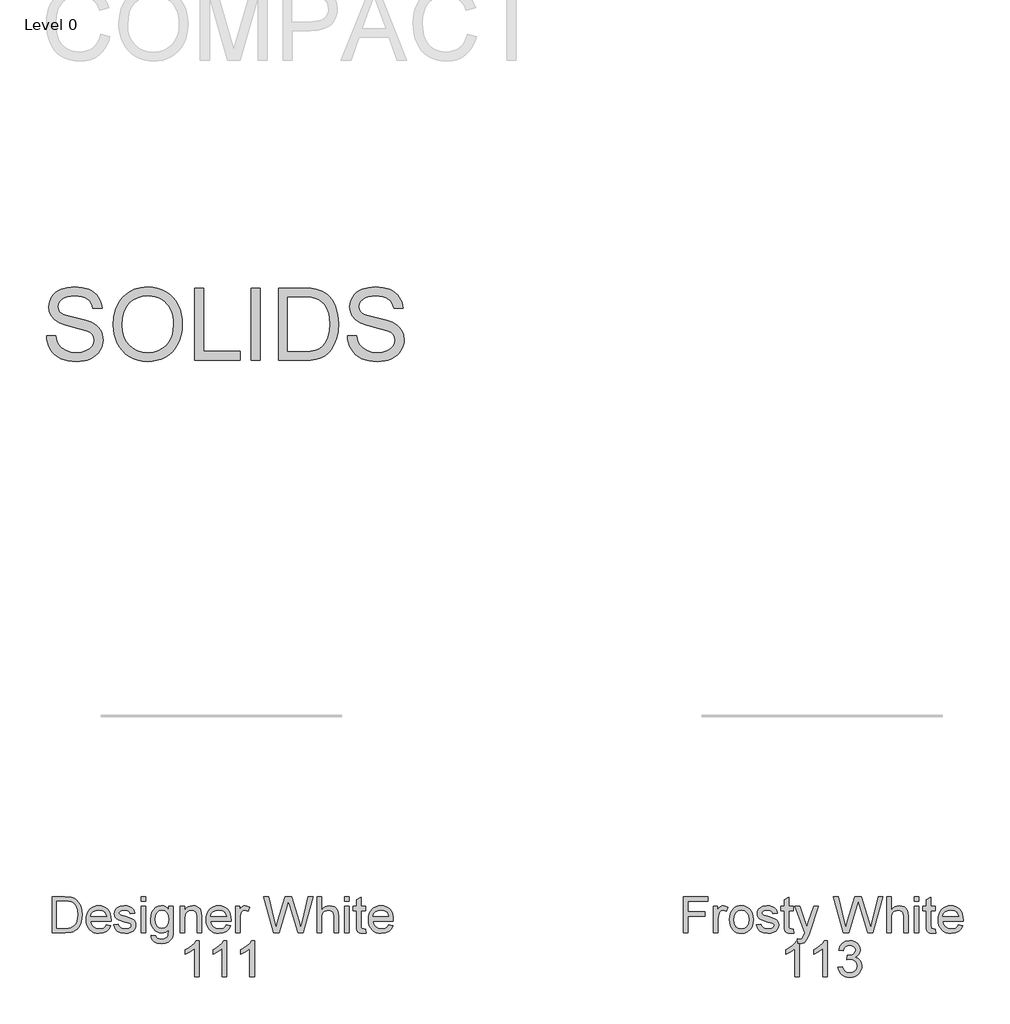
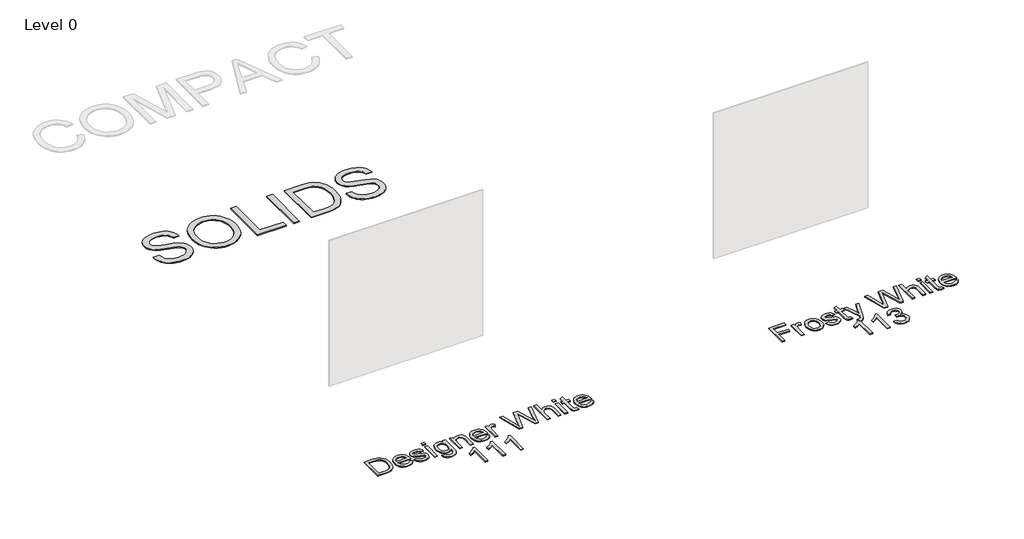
# One storey, part 6 of 15: 3 proxies.
"""IFC4 building model written with IfcOpenShell, lengths in millimetres."""

from ifc_helpers import new_model, si_unit, origin, origin_with_axes, place, context, project, spatial, polyline, outline, extrude, element, save

model = new_model("IFC4")

# Units and contexts
model_context = context("Model", 3, world=origin())
ifc_project = project(units=[si_unit("LENGTHUNIT", "METRE", prefix="MILLI")], contexts=[model_context])

# Site, building, storey
site = spatial("IfcSite", under=ifc_project)
building = spatial("IfcBuilding", under=site)
storey = spatial("IfcBuildingStorey", under=building, Name="Level 0", Elevation=0.0)

# Proxies
placement = place(None, origin())
element("IfcBuildingElementProxy", 1, Name="300mm Arial", ObjectType="300mm Arial", at=placement, inside=storey, context=model_context, shape_type="SweptSolid", body=[
    extrude(outline(polyline([(-10858.6160282, -7002.860494), (-10858.6160282, -6701.4915635), (-10754.6525764, -6701.4915635), (-10700.8682287, -6705.8325711), (-10676.8455344, -6714.2018865), (-10656.5752365, -6727.390456), (-10635.7347215, -6750.3462925), (-10620.890683, -6778.8939353), (-10612.0063328, -6812.4815615), (-10609.0448827, -6850.557348), (-10611.0498396, -6882.9033724), (-10617.0647102, -6911.3682418), (-10626.2249719, -6935.6024682), (-10637.6661019, -6955.2565638), (-10650.8362774, -6970.771987), (-10665.1836752, -6982.590196), (-10681.6555915, -6991.3549846), (-10701.1993225, -6997.710146), (-10749.6493813, -7002.860494), (-10858.6160282, -7002.860494)]), holes=[polyline([(-10820.9449119, -6965.1893777), (-10754.2846944, -6965.1893777), (-10726.7119389, -6963.8282143), (-10705.7978475, -6959.7447241), (-10690.0157099, -6953.1780305), (-10677.8388158, -6944.3672567), (-10664.7514138, -6928.0608873), (-10654.9197675, -6906.9536578), (-10648.7669411, -6880.9535978), (-10646.715999, -6849.9687368), (-10650.7351098, -6808.9131061), (-10662.7924422, -6778.5996297), (-10680.6071278, -6757.7775088), (-10701.8982983, -6745.1959446), (-10723.5665478, -6740.670996), (-10755.314764, -6739.1626798), (-10820.9449119, -6739.1626798), (-10820.9449119, -6965.1893777)])]), origin_with_axes(), (0.0, 0.0, 1.0), 10.0),
    extrude(outline(polyline([(-10407.004091, -6936.9360404), (-10370.0687387, -6941.64493), (-10383.3768698, -6969.4752029), (-10404.612858, -6990.2789297), (-10433.2984566, -7003.2467701), (-10468.955419, -7007.5693835), (-10492.3297212, -7005.7046817), (-10513.1564407, -7000.1105761), (-10531.4355773, -6990.7870668), (-10547.1671311, -6977.7341537), (-10559.8176732, -6961.3151204), (-10568.8537747, -6941.8932503), (-10574.2754357, -6919.4685435), (-10576.082656, -6894.0409998), (-10574.2570416, -6867.7512327), (-10568.7801983, -6844.5792656), (-10559.6521263, -6824.5250983), (-10546.8728255, -6807.5887309), (-10531.1826584, -6794.133447), (-10513.3219876, -6784.5225298), (-10493.2908129, -6778.7559796), (-10471.0891345, -6776.8337961), (-10449.6025267, -6778.751381), (-10430.1714596, -6784.5041357), (-10412.7959331, -6794.0920602), (-10397.4759473, -6807.5151545), (-10384.9702587, -6824.4147337), (-10376.037624, -6844.4321128), (-10370.6780432, -6867.5672917), (-10368.8915163, -6893.8202706), (-10369.1122455, -6903.9738137), (-10538.4115396, -6903.9738137), (-10531.8908313, -6932.1719686), (-10516.7432901, -6952.902119), (-10494.8819026, -6965.6492302), (-10468.219655, -6969.8982672), (-10448.1700862, -6967.9300985), (-10431.2843027, -6962.0255925), (-10417.5623042, -6951.8168672), (-10407.004091, -6936.9360404)]), holes=[polyline([(-10538.4115396, -6866.3026974), (-10406.5626326, -6866.3026974), (-10411.6577982, -6846.4002814), (-10421.6457944, -6832.1632482), (-10443.6083495, -6818.9194964), (-10471.2362873, -6814.5049125), (-10496.629342, -6818.0273826), (-10517.6262069, -6828.5947929), (-10532.2219251, -6845.0667092), (-10538.4115396, -6866.3026974)])]), origin_with_axes(), (0.0, 0.0, 1.0), 10.0),
    extrude(outline(polyline([(-10345.3470686, -6936.9360404), (-10307.6759523, -6932.2271509), (-10301.734658, -6948.3403823), (-10290.2383457, -6960.1861825), (-10273.1134388, -6967.470246), (-10250.286361, -6969.8982672), (-10227.7351947, -6967.6725811), (-10211.8794807, -6960.9955229), (-10202.4984899, -6951.3202265), (-10199.3714929, -6940.0998256), (-10202.5168839, -6930.4981055), (-10211.9530571, -6923.1772538), (-10250.7278194, -6912.4350996), (-10307.4552231, -6894.0042116), (-10321.8118179, -6884.7427824), (-10332.2136813, -6872.4831149), (-10338.5320546, -6858.0069584), (-10340.638179, -6842.0960621), (-10338.9459219, -6827.5003439), (-10333.8691503, -6814.0266659), (-10325.8677169, -6802.2084568), (-10315.4014742, -6792.5791455), (-10291.4523563, -6781.4323211), (-10259.0419525, -6776.8337961), (-10234.5226175, -6778.6824032), (-10213.2038559, -6784.2282242), (-10196.0605549, -6792.9286334), (-10184.0676019, -6804.2410048), (-10176.1213508, -6819.0022698), (-10171.1181557, -6838.0493601), (-10208.789272, -6842.7582497), (-10213.5441468, -6830.9032524), (-10222.9527288, -6821.972917), (-10237.1069885, -6816.3719136), (-10256.0988965, -6814.5049125), (-10277.7303579, -6816.2891401), (-10292.1513321, -6821.6418232), (-10300.2631301, -6829.3673451), (-10302.9670627, -6838.2700893), (-10298.4789024, -6849.2329728), (-10284.4258102, -6857.5471059), (-10251.9786182, -6865.5669334), (-10196.6859543, -6883.2988455), (-10182.0810391, -6891.7785255), (-10171.0077911, -6903.3852025), (-10164.0272302, -6918.1556646), (-10161.7003766, -6936.1267001), (-10164.4319004, -6954.7047408), (-10172.6264718, -6972.1791356), (-10185.9713912, -6987.1795239), (-10204.1539588, -6998.3355454), (-10226.1165139, -7005.260924), (-10250.8013958, -7007.5693835), (-10288.7852118, -7003.1180114), (-10316.5051202, -6989.763895), (-10335.0095845, -6967.654187), (-10345.3470686, -6936.9360404)])), origin_with_axes(), (0.0, 0.0, 1.0), 10.0),
    extrude(outline(polyline([(-10119.3203707, -6739.1626798), (-10119.3203707, -6701.4915635), (-10081.6492544, -6701.4915635), (-10081.6492544, -6739.1626798), (-10119.3203707, -6739.1626798)])), origin_with_axes(), (0.0, 0.0, 1.0), 10.0),
    extrude(outline(polyline([(-10119.3203707, -7002.860494), (-10119.3203707, -6781.5426857), (-10081.6492544, -6781.5426857), (-10081.6492544, -7002.860494), (-10119.3203707, -7002.860494)])), origin_with_axes(), (0.0, 0.0, 1.0), 10.0),
    extrude(outline(polyline([(-10034.5603591, -7021.6960521), (-9996.8892427, -7026.4049417), (-9992.7321762, -7038.1771655), (-9984.6755605, -7046.2705694), (-9968.8382406, -7052.5613515), (-9948.1080902, -7054.6582789), (-9925.9983823, -7052.28544), (-9909.5540571, -7045.1669234), (-9898.1497152, -7033.7625816), (-9891.1599573, -7018.532267), (-9888.5847834, -6974.6071568), (-9901.1203624, -6986.9679918), (-9915.1090752, -6995.7971597), (-9930.550922, -7001.0946604), (-9947.4459026, -7002.860494), (-9968.1001774, -7000.8049533), (-9986.2850442, -6994.6383314), (-10002.0005032, -6984.3606281), (-10015.2465543, -6969.9718436), (-10025.7564831, -6952.708981), (-10033.263575, -6933.8090435), (-10037.7678302, -6913.2720311), (-10039.2692486, -6891.0979438), (-10036.574513, -6860.6832999), (-10028.4903061, -6832.7150712), (-10015.3017366, -6809.0142737), (-9997.2939129, -6791.4019232), (-9975.0830375, -6780.4758279), (-9949.2853126, -6776.8337961), (-9931.6683635, -6778.8939353), (-9915.6792923, -6785.0743528), (-9901.3180989, -6795.3750487), (-9888.5847834, -6809.7960229), (-9888.5847834, -6781.5426857), (-9850.9136671, -6781.5426857), (-9850.9136671, -6972.620594), (-9853.488841, -7016.7388422), (-9861.2143629, -7045.7923228), (-9874.5224941, -7065.0601423), (-9893.8454959, -7079.8214074), (-9918.760304, -7089.2023982), (-9948.8438542, -7092.3293952), (-9983.8938113, -7087.9240083), (-10011.494158, -7074.7078476), (-10021.8891236, -7064.7865301), (-10029.198479, -7052.644125), (-10033.4222241, -7038.2806323), (-10034.5603591, -7021.6960521)]), holes=[polyline([(-10001.5981323, -6888.5227699), (-9997.5790215, -6923.0760863), (-9985.5216891, -6946.8320661), (-9967.3943038, -6960.6000498), (-9945.1650342, -6965.1893777), (-9923.1013116, -6960.6276409), (-9904.8819558, -6946.9424307), (-9892.6590765, -6923.4899535), (-9888.5847834, -6889.6264159), (-9892.7786381, -6856.9676917), (-9905.3602023, -6833.4508352), (-9923.8462726, -6819.2413931), (-9945.7536454, -6814.5049125), (-9967.2655451, -6819.1678167), (-9985.3009599, -6833.1565296), (-9997.5238392, -6856.3238983), (-10001.5981323, -6888.5227699)])]), origin_with_axes(), (0.0, 0.0, 1.0), 10.0),
    extrude(outline(polyline([(-9794.4069926, -7002.860494), (-9794.4069926, -6781.5426857), (-9756.7358763, -6781.5426857), (-9756.7358763, -6812.4447733), (-9743.6484743, -6796.8649708), (-9727.9307161, -6785.7365404), (-9709.5826016, -6779.0594822), (-9688.6041308, -6776.8337961), (-9670.0352871, -6778.6272209), (-9653.0299419, -6784.0074951), (-9638.8480909, -6792.303234), (-9628.7497302, -6802.8430532), (-9617.4557529, -6830.5445674), (-9615.4691901, -6866.964885), (-9615.4691901, -7002.860494), (-9653.1403065, -7002.860494), (-9653.1403065, -6872.0416565), (-9657.481314, -6838.7115477), (-9663.4869876, -6828.7879309), (-9672.8219932, -6821.0900002), (-9684.7873551, -6816.1511844), (-9698.6840975, -6814.5049125), (-9720.7478201, -6818.2021265), (-9739.5557871, -6829.2937687), (-9747.0720761, -6838.3482643), (-9752.440854, -6850.7228949), (-9756.7358763, -6885.4325611), (-9756.7358763, -7002.860494), (-9794.4069926, -7002.860494)])), origin_with_axes(), (0.0, 0.0, 1.0), 10.0),
    extrude(outline(polyline([(-9408.7195089, -6936.9360404), (-9371.7841565, -6941.64493), (-9385.0922877, -6969.4752029), (-9406.3282759, -6990.2789297), (-9435.0138745, -7003.2467701), (-9470.6708368, -7007.5693835), (-9494.0451391, -7005.7046817), (-9514.8718586, -7000.1105761), (-9533.1509952, -6990.7870668), (-9548.882549, -6977.7341537), (-9561.5330911, -6961.3151204), (-9570.5691926, -6941.8932503), (-9575.9908535, -6919.4685435), (-9577.7980738, -6894.0409998), (-9575.9724594, -6867.7512327), (-9570.4956162, -6844.5792656), (-9561.3675442, -6824.5250983), (-9548.5882434, -6807.5887309), (-9532.8980763, -6794.133447), (-9515.0374055, -6784.5225298), (-9495.0062308, -6778.7559796), (-9472.8045524, -6776.8337961), (-9451.3179446, -6778.751381), (-9431.8868775, -6784.5041357), (-9414.511351, -6794.0920602), (-9399.1913652, -6807.5151545), (-9386.6856766, -6824.4147337), (-9377.7530419, -6844.4321128), (-9372.3934611, -6867.5672917), (-9370.6069342, -6893.8202706), (-9370.8276634, -6903.9738137), (-9540.1269575, -6903.9738137), (-9533.6062492, -6932.1719686), (-9518.458708, -6952.902119), (-9496.5973205, -6965.6492302), (-9469.9350729, -6969.8982672), (-9449.8855041, -6967.9300985), (-9432.9997205, -6962.0255925), (-9419.2777221, -6951.8168672), (-9408.7195089, -6936.9360404)]), holes=[polyline([(-9540.1269575, -6866.3026974), (-9408.2780505, -6866.3026974), (-9413.3732161, -6846.4002814), (-9423.3612123, -6832.1632482), (-9445.3237674, -6818.9194964), (-9472.9517052, -6814.5049125), (-9498.3447599, -6818.0273826), (-9519.3416248, -6828.5947929), (-9533.937343, -6845.0667092), (-9540.1269575, -6866.3026974)])]), origin_with_axes(), (0.0, 0.0, 1.0), 10.0),
    extrude(outline(polyline([(-9332.9358179, -7002.860494), (-9332.9358179, -6781.5426857), (-9299.9735911, -6781.5426857), (-9299.9735911, -6814.2841833), (-9287.796697, -6795.3014723), (-9276.5762962, -6784.1178596), (-9265.3191071, -6778.654812), (-9253.0318485, -6776.8337961), (-9234.2698667, -6779.7400639), (-9215.2135794, -6788.4588672), (-9227.7951436, -6822.2304343), (-9241.0388955, -6816.4362929), (-9254.2826473, -6814.5049125), (-9265.5306393, -6816.3627165), (-9275.5830148, -6821.9361288), (-9283.7040098, -6830.8020848), (-9289.1578604, -6842.5375205), (-9293.7379913, -6863.5803706), (-9295.2647015, -6886.5362071), (-9295.2647015, -7002.860494), (-9332.9358179, -7002.860494)])), origin_with_axes(), (0.0, 0.0, 1.0), 10.0),
    extrude(outline(polyline([(-9015.3065032, -7002.860494), (-9097.4913409, -6701.4915635), (-9058.6430022, -6701.4915635), (-9010.9654957, -6899.5592297), (-8996.2502159, -6960.7012173), (-8980.5048665, -6906.622564), (-8920.7608305, -6701.4915635), (-8864.7691908, -6701.4915635), (-8821.3591154, -6850.189466), (-8802.7626805, -6905.3717653), (-8789.0590762, -6960.7012173), (-8774.7852548, -6901.3250633), (-8726.6662898, -6701.4915635), (-8687.8179511, -6701.4915635), (-8770.0763652, -7002.860494), (-8810.3226555, -7002.860494), (-8882.5746794, -6770.359073), (-8892.654646, -6737.9118811), (-8903.9854115, -6776.9809489), (-8969.8362886, -7002.860494), (-9015.3065032, -7002.860494)])), origin_with_axes(), (0.0, 0.0, 1.0), 10.0),
    extrude(outline(polyline([(-8654.8557243, -7002.860494), (-8654.8557243, -6701.4915635), (-8617.184608, -6701.4915635), (-8617.184608, -6812.2976205), (-8603.3476465, -6796.7821973), (-8587.8092307, -6785.6997522), (-8570.5693607, -6779.0502852), (-8551.6280365, -6776.8337961), (-8528.8745351, -6779.2526203), (-8509.321607, -6786.5090926), (-8493.9257456, -6798.0329961), (-8483.6434438, -6813.2541137), (-8477.8493024, -6834.1682051), (-8475.9179219, -6862.7710302), (-8475.9179219, -7002.860494), (-8513.5890382, -7002.860494), (-8513.5890382, -6866.6705794), (-8516.5872765, -6843.0893435), (-8525.5819912, -6826.9393239), (-8540.0765418, -6817.6135153), (-8559.5742876, -6814.5049125), (-8575.4943809, -6816.6018398), (-8590.439587, -6822.8926219), (-8602.8188161, -6832.7702535), (-8611.0409787, -6845.6277292), (-8615.6487007, -6862.7158479), (-8617.184608, -6885.2854083), (-8617.184608, -7002.860494), (-8654.8557243, -7002.860494)])), origin_with_axes(), (0.0, 0.0, 1.0), 10.0),
    extrude(outline(polyline([(-8424.120137, -6739.1626798), (-8424.120137, -6701.4915635), (-8386.4490207, -6701.4915635), (-8386.4490207, -6739.1626798), (-8424.120137, -6739.1626798)])), origin_with_axes(), (0.0, 0.0, 1.0), 10.0),
    extrude(outline(polyline([(-8424.120137, -7002.860494), (-8424.120137, -6781.5426857), (-8386.4490207, -6781.5426857), (-8386.4490207, -7002.860494), (-8424.120137, -7002.860494)])), origin_with_axes(), (0.0, 0.0, 1.0), 10.0),
    extrude(outline(polyline([(-8249.8912241, -6971.4433716), (-8245.1823345, -7003.96414), (-8273.3620953, -7007.5693835), (-8291.4434954, -7006.005885), (-8304.9263705, -7001.3153896), (-8314.4545142, -6994.0865084), (-8320.6717199, -6984.9078526), (-8324.0930225, -6969.1441091), (-8325.2334567, -6942.1599648), (-8325.2334567, -6819.213802), (-8353.4867939, -6819.213802), (-8353.4867939, -6781.5426857), (-8325.2334567, -6781.5426857), (-8325.2334567, -6727.758338), (-8287.5623404, -6705.6118419), (-8287.5623404, -6781.5426857), (-8249.8912241, -6781.5426857), (-8249.8912241, -6819.213802), (-8287.5623404, -6819.213802), (-8287.5623404, -6941.0563188), (-8285.5757776, -6960.4804881), (-8279.1378427, -6967.3598814), (-8266.298761, -6969.8982672), (-8249.8912241, -6971.4433716)])), origin_with_axes(), (0.0, 0.0, 1.0), 10.0),
    extrude(outline(polyline([(-8057.2682114, -6936.9360404), (-8020.3328591, -6941.64493), (-8033.6409902, -6969.4752029), (-8054.8769784, -6990.2789297), (-8083.562577, -7003.2467701), (-8119.2195394, -7007.5693835), (-8142.5938416, -7005.7046817), (-8163.4205611, -7000.1105761), (-8181.6996977, -6990.7870668), (-8197.4312515, -6977.7341537), (-8210.0817936, -6961.3151204), (-8219.1178952, -6941.8932503), (-8224.5395561, -6919.4685435), (-8226.3467764, -6894.0409998), (-8224.521162, -6867.7512327), (-8219.0443188, -6844.5792656), (-8209.9162467, -6824.5250983), (-8197.1369459, -6807.5887309), (-8181.4467788, -6794.133447), (-8163.586108, -6784.5225298), (-8143.5549333, -6778.7559796), (-8121.3532549, -6776.8337961), (-8099.8666472, -6778.751381), (-8080.43558, -6784.5041357), (-8063.0600535, -6794.0920602), (-8047.7400677, -6807.5151545), (-8035.2343791, -6824.4147337), (-8026.3017444, -6844.4321128), (-8020.9421636, -6867.5672917), (-8019.1556367, -6893.8202706), (-8019.3763659, -6903.9738137), (-8188.6756601, -6903.9738137), (-8182.1549517, -6932.1719686), (-8167.0074105, -6952.902119), (-8145.146023, -6965.6492302), (-8118.4837754, -6969.8982672), (-8098.4342066, -6967.9300985), (-8081.5484231, -6962.0255925), (-8067.8264246, -6951.8168672), (-8057.2682114, -6936.9360404)]), holes=[polyline([(-8188.6756601, -6866.3026974), (-8056.826753, -6866.3026974), (-8061.9219186, -6846.4002814), (-8071.9099148, -6832.1632482), (-8093.8724699, -6818.9194964), (-8121.5004077, -6814.5049125), (-8146.8934625, -6818.0273826), (-8167.8903273, -6828.5947929), (-8182.4860455, -6845.0667092), (-8188.6756601, -6866.3026974)])]), origin_with_axes(), (0.0, 0.0, 1.0), 10.0),
    extrude(outline(polyline([(-9636.6591931, -7368.7849475), (-9674.3303094, -7368.7849475), (-9674.3303094, -7133.9290818), (-9710.0148629, -7159.3497277), (-9749.672542, -7178.3692268), (-9749.672542, -7142.7582497), (-9720.0856325, -7126.6634124), (-9694.4534545, -7107.5151545), (-9674.2475359, -7087.1528861), (-9660.9394048, -7067.4160171), (-9636.6591931, -7067.4160171), (-9636.6591931, -7368.7849475)])), origin_with_axes(), (0.0, 0.0, 1.0), 10.0),
    extrude(outline(polyline([(-9405.9236057, -7368.7849475), (-9443.594722, -7368.7849475), (-9443.594722, -7133.9290818), (-9479.2792755, -7159.3497277), (-9518.9369546, -7178.3692268), (-9518.9369546, -7142.7582497), (-9489.3500452, -7126.6634124), (-9463.7178671, -7107.5151545), (-9443.5119486, -7087.1528861), (-9430.2038174, -7067.4160171), (-9405.9236057, -7067.4160171), (-9405.9236057, -7368.7849475)])), origin_with_axes(), (0.0, 0.0, 1.0), 10.0),
    extrude(outline(polyline([(-9175.1880183, -7368.7849475), (-9212.8591346, -7368.7849475), (-9212.8591346, -7133.9290818), (-9248.5436882, -7159.3497277), (-9288.2013672, -7178.3692268), (-9288.2013672, -7142.7582497), (-9258.6144578, -7126.6634124), (-9232.9822798, -7107.5151545), (-9212.7763612, -7087.1528861), (-9199.46823, -7067.4160171), (-9175.1880183, -7067.4160171), (-9175.1880183, -7368.7849475)])), origin_with_axes(), (0.0, 0.0, 1.0), 10.0),
])
element("IfcBuildingElementProxy", 2, Name="300mm Arial", ObjectType="300mm Arial", at=placement, inside=storey, context=model_context, shape_type="SweptSolid", body=[
    extrude(outline(polyline([(-5601.9815484, -7002.860494), (-5601.9815484, -6701.4915635), (-5399.4992983, -6701.4915635), (-5399.4992983, -6739.1626798), (-5564.3104321, -6739.1626798), (-5564.3104321, -6828.6315811), (-5423.043746, -6828.6315811), (-5423.043746, -6866.3026974), (-5564.3104321, -6866.3026974), (-5564.3104321, -7002.860494), (-5601.9815484, -7002.860494)])), origin_with_axes(), (0.0, 0.0, 1.0), 10.0),
    extrude(outline(polyline([(-5352.4104029, -7002.860494), (-5352.4104029, -6781.5426857), (-5319.4481761, -6781.5426857), (-5319.4481761, -6814.2841833), (-5307.2712821, -6795.3014723), (-5296.0508812, -6784.1178596), (-5284.7936922, -6778.654812), (-5272.5064335, -6776.8337961), (-5253.7444518, -6779.7400639), (-5234.6881644, -6788.4588672), (-5247.2697287, -6822.2304343), (-5260.5134805, -6816.4362929), (-5273.7572323, -6814.5049125), (-5285.0052243, -6816.3627165), (-5295.0575998, -6821.9361288), (-5303.1785949, -6830.8020848), (-5308.6324455, -6842.5375205), (-5313.2125763, -6863.5803706), (-5314.7392866, -6886.5362071), (-5314.7392866, -7002.860494), (-5352.4104029, -7002.860494)])), origin_with_axes(), (0.0, 0.0, 1.0), 10.0),
    extrude(outline(polyline([(-5220.5614958, -6892.2015898), (-5218.5243493, -6863.5389839), (-5212.4129096, -6838.8403064), (-5202.2271769, -6818.1055575), (-5187.967151, -6801.334737), (-5173.6105562, -6790.6155754), (-5157.7640392, -6782.9590314), (-5140.4276002, -6778.3651049), (-5121.6012391, -6776.8337961), (-5100.8182056, -6778.698498), (-5082.0263335, -6784.2926036), (-5065.2256226, -6793.6161129), (-5050.416073, -6806.669026), (-5038.3288502, -6823.0098843), (-5029.6951197, -6842.1972296), (-5024.5148813, -6864.2310619), (-5022.7881352, -6889.1113811), (-5025.8415558, -6927.1687735), (-5035.0018174, -6956.1394806), (-5050.0022058, -6977.8353213), (-5070.5760064, -6994.0681143), (-5095.0125679, -7004.1940662), (-5121.6012391, -7007.5693835), (-5142.6877752, -7005.7115794), (-5161.6543913, -7000.1381672), (-5178.5010875, -6990.8491468), (-5193.2278636, -6977.8445183), (-5205.1863277, -6961.3450108), (-5213.7280878, -6941.5713536), (-5218.8531438, -6918.5235466), (-5220.5614958, -6892.2015898)]), holes=[polyline([(-5182.8903795, -6892.1280134), (-5178.5309779, -6926.2214773), (-5165.4527729, -6950.5108861), (-5145.7710862, -6965.0514219), (-5121.6012391, -6969.8982672), (-5097.5417566, -6965.0238308), (-5077.8968581, -6950.4005215), (-5064.8186532, -6925.789216), (-5060.4592515, -6890.950791), (-5064.8462443, -6857.8506085), (-5078.0072227, -6833.8922936), (-5097.6797124, -6819.3517577), (-5121.6012391, -6814.5049125), (-5145.7710862, -6819.3333636), (-5165.4527729, -6833.8187172), (-5178.5309779, -6858.0529436), (-5182.8903795, -6892.1280134)])]), origin_with_axes(), (0.0, 0.0, 1.0), 10.0),
    extrude(outline(polyline([(-4994.534798, -6936.9360404), (-4956.8636817, -6932.2271509), (-4950.9223874, -6948.3403823), (-4939.4260751, -6960.1861825), (-4922.3011682, -6967.470246), (-4899.4740904, -6969.8982672), (-4876.9229241, -6967.6725811), (-4861.0672101, -6960.9955229), (-4851.6862192, -6951.3202265), (-4848.5592223, -6940.0998256), (-4851.7046133, -6930.4981055), (-4861.1407865, -6923.1772538), (-4899.9155488, -6912.4350996), (-4956.6429525, -6894.0042116), (-4970.9995473, -6884.7427824), (-4981.4014107, -6872.4831149), (-4987.719784, -6858.0069584), (-4989.8259084, -6842.0960621), (-4988.1336513, -6827.5003439), (-4983.0568797, -6814.0266659), (-4975.0554463, -6802.2084568), (-4964.5892036, -6792.5791455), (-4940.6400857, -6781.4323211), (-4908.2296819, -6776.8337961), (-4883.7103469, -6778.6824032), (-4862.3915853, -6784.2282242), (-4845.2482843, -6792.9286334), (-4833.2553313, -6804.2410048), (-4825.3090802, -6819.0022698), (-4820.3058851, -6838.0493601), (-4857.9770014, -6842.7582497), (-4862.7318762, -6830.9032524), (-4872.1404582, -6821.972917), (-4886.2947179, -6816.3719136), (-4905.2866259, -6814.5049125), (-4926.9180873, -6816.2891401), (-4941.3390615, -6821.6418232), (-4949.4508595, -6829.3673451), (-4952.1547921, -6838.2700893), (-4947.6666318, -6849.2329728), (-4933.6135396, -6857.5471059), (-4901.1663476, -6865.5669334), (-4845.8736837, -6883.2988455), (-4831.2687685, -6891.7785255), (-4820.1955205, -6903.3852025), (-4813.2149596, -6918.1556646), (-4810.888106, -6936.1267001), (-4813.6196298, -6954.7047408), (-4821.8142012, -6972.1791356), (-4835.1591206, -6987.1795239), (-4853.3416882, -6998.3355454), (-4875.3042433, -7005.260924), (-4899.9891252, -7007.5693835), (-4937.9729412, -7003.1180114), (-4965.6928496, -6989.763895), (-4984.1973139, -6967.654187), (-4994.534798, -6936.9360404)])), origin_with_axes(), (0.0, 0.0, 1.0), 10.0),
    extrude(outline(polyline([(-4688.456978, -6971.4433716), (-4683.7480885, -7003.96414), (-4711.9278493, -7007.5693835), (-4730.0092493, -7006.005885), (-4743.4921245, -7001.3153896), (-4753.0202681, -6994.0865084), (-4759.2374739, -6984.9078526), (-4762.6587764, -6969.1441091), (-4763.7992106, -6942.1599648), (-4763.7992106, -6819.213802), (-4792.0525478, -6819.213802), (-4792.0525478, -6781.5426857), (-4763.7992106, -6781.5426857), (-4763.7992106, -6727.758338), (-4726.1280943, -6705.6118419), (-4726.1280943, -6781.5426857), (-4688.456978, -6781.5426857), (-4688.456978, -6819.213802), (-4726.1280943, -6819.213802), (-4726.1280943, -6941.0563188), (-4724.1415315, -6960.4804881), (-4717.7035966, -6967.3598814), (-4704.864515, -6969.8982672), (-4688.456978, -6971.4433716)])), origin_with_axes(), (0.0, 0.0, 1.0), 10.0),
    extrude(outline(polyline([(-4650.7858617, -7087.6205057), (-4655.4947512, -7051.3473409), (-4636.3648875, -7054.6582789), (-4618.4858225, -7050.5012124), (-4607.5229391, -7038.9129295), (-4597.2222432, -7011.1746271), (-4594.2791872, -7002.0511536), (-4674.3303094, -6781.5426857), (-4634.5990539, -6781.5426857), (-4592.1454717, -6904.4152721), (-4577.3566154, -6953.5643066), (-4562.5677592, -6910.1542312), (-4518.9369546, -6781.5426857), (-4479.5000047, -6781.5426857), (-4556.5344945, -7008.1579947), (-4576.5472751, -7057.3070293), (-4586.7927886, -7072.9971964), (-4598.3994656, -7083.8681093), (-4611.8823407, -7090.2140737), (-4627.7564488, -7092.3293952), (-4650.7858617, -7087.6205057)])), origin_with_axes(), (0.0, 0.0, 1.0), 10.0),
    extrude(outline(polyline([(-4271.9409831, -7002.860494), (-4354.1258208, -6701.4915635), (-4315.2774821, -6701.4915635), (-4267.5999755, -6899.5592297), (-4252.8846957, -6960.7012173), (-4237.1393463, -6906.622564), (-4177.3953103, -6701.4915635), (-4121.4036706, -6701.4915635), (-4077.9935952, -6850.189466), (-4059.3971603, -6905.3717653), (-4045.693556, -6960.7012173), (-4031.4197346, -6901.3250633), (-3983.3007696, -6701.4915635), (-3944.4524309, -6701.4915635), (-4026.7108451, -7002.860494), (-4066.9571353, -7002.860494), (-4139.2091592, -6770.359073), (-4149.2891259, -6737.9118811), (-4160.6198913, -6776.9809489), (-4226.4707684, -7002.860494), (-4271.9409831, -7002.860494)])), origin_with_axes(), (0.0, 0.0, 1.0), 10.0),
    extrude(outline(polyline([(-3911.4902042, -7002.860494), (-3911.4902042, -6701.4915635), (-3873.8190879, -6701.4915635), (-3873.8190879, -6812.2976205), (-3859.9821263, -6796.7821973), (-3844.4437106, -6785.6997522), (-3827.2038406, -6779.0502852), (-3808.2625163, -6776.8337961), (-3785.5090149, -6779.2526203), (-3765.9560869, -6786.5090926), (-3750.5602254, -6798.0329961), (-3740.2779236, -6813.2541137), (-3734.4837822, -6834.1682051), (-3732.5524017, -6862.7710302), (-3732.5524017, -7002.860494), (-3770.223518, -7002.860494), (-3770.223518, -6866.6705794), (-3773.2217563, -6843.0893435), (-3782.2164711, -6826.9393239), (-3796.7110217, -6817.6135153), (-3816.2087674, -6814.5049125), (-3832.1288608, -6816.6018398), (-3847.0740668, -6822.8926219), (-3859.453296, -6832.7702535), (-3867.6754586, -6845.6277292), (-3872.2831805, -6862.7158479), (-3873.8190879, -6885.2854083), (-3873.8190879, -7002.860494), (-3911.4902042, -7002.860494)])), origin_with_axes(), (0.0, 0.0, 1.0), 10.0),
    extrude(outline(polyline([(-3680.7546168, -6739.1626798), (-3680.7546168, -6701.4915635), (-3643.0835005, -6701.4915635), (-3643.0835005, -6739.1626798), (-3680.7546168, -6739.1626798)])), origin_with_axes(), (0.0, 0.0, 1.0), 10.0),
    extrude(outline(polyline([(-3680.7546168, -7002.860494), (-3680.7546168, -6781.5426857), (-3643.0835005, -6781.5426857), (-3643.0835005, -7002.860494), (-3680.7546168, -7002.860494)])), origin_with_axes(), (0.0, 0.0, 1.0), 10.0),
    extrude(outline(polyline([(-3506.5257039, -6971.4433716), (-3501.8168143, -7003.96414), (-3529.9965752, -7007.5693835), (-3548.0779752, -7006.005885), (-3561.5608504, -7001.3153896), (-3571.088994, -6994.0865084), (-3577.3061998, -6984.9078526), (-3580.7275023, -6969.1441091), (-3581.8679365, -6942.1599648), (-3581.8679365, -6819.213802), (-3610.1212737, -6819.213802), (-3610.1212737, -6781.5426857), (-3581.8679365, -6781.5426857), (-3581.8679365, -6727.758338), (-3544.1968202, -6705.6118419), (-3544.1968202, -6781.5426857), (-3506.5257039, -6781.5426857), (-3506.5257039, -6819.213802), (-3544.1968202, -6819.213802), (-3544.1968202, -6941.0563188), (-3542.2102574, -6960.4804881), (-3535.7723225, -6967.3598814), (-3522.9332409, -6969.8982672), (-3506.5257039, -6971.4433716)])), origin_with_axes(), (0.0, 0.0, 1.0), 10.0),
    extrude(outline(polyline([(-3313.9026912, -6936.9360404), (-3276.9673389, -6941.64493), (-3290.2754701, -6969.4752029), (-3311.5114582, -6990.2789297), (-3340.1970568, -7003.2467701), (-3375.8540192, -7007.5693835), (-3399.2283215, -7005.7046817), (-3420.0550409, -7000.1105761), (-3438.3341776, -6990.7870668), (-3454.0657314, -6977.7341537), (-3466.7162735, -6961.3151204), (-3475.752375, -6941.8932503), (-3481.1740359, -6919.4685435), (-3482.9812562, -6894.0409998), (-3481.1556418, -6867.7512327), (-3475.6787986, -6844.5792656), (-3466.5507266, -6824.5250983), (-3453.7714258, -6807.5887309), (-3438.0812587, -6794.133447), (-3420.2205878, -6784.5225298), (-3400.1894132, -6778.7559796), (-3377.9877348, -6776.8337961), (-3356.501127, -6778.751381), (-3337.0700599, -6784.5041357), (-3319.6945334, -6794.0920602), (-3304.3745475, -6807.5151545), (-3291.868859, -6824.4147337), (-3282.9362243, -6844.4321128), (-3277.5766434, -6867.5672917), (-3275.7901165, -6893.8202706), (-3276.0108457, -6903.9738137), (-3445.3101399, -6903.9738137), (-3438.7894315, -6932.1719686), (-3423.6418904, -6952.902119), (-3401.7805028, -6965.6492302), (-3375.1182552, -6969.8982672), (-3355.0686865, -6967.9300985), (-3338.1829029, -6962.0255925), (-3324.4609045, -6951.8168672), (-3313.9026912, -6936.9360404)]), holes=[polyline([(-3445.3101399, -6866.3026974), (-3313.4612328, -6866.3026974), (-3318.5563985, -6846.4002814), (-3328.5443946, -6832.1632482), (-3350.5069497, -6818.9194964), (-3378.1348876, -6814.5049125), (-3403.5279423, -6818.0273826), (-3424.5248072, -6828.5947929), (-3439.1205253, -6845.0667092), (-3445.3101399, -6866.3026974)])]), origin_with_axes(), (0.0, 0.0, 1.0), 10.0),
    extrude(outline(polyline([(-4636.6591931, -7368.7849475), (-4674.3303094, -7368.7849475), (-4674.3303094, -7133.9290818), (-4710.0148629, -7159.3497277), (-4749.672542, -7178.3692268), (-4749.672542, -7142.7582497), (-4720.0856325, -7126.6634124), (-4694.4534545, -7107.5151545), (-4674.2475359, -7087.1528861), (-4660.9394048, -7067.4160171), (-4636.6591931, -7067.4160171), (-4636.6591931, -7368.7849475)])), origin_with_axes(), (0.0, 0.0, 1.0), 10.0),
    extrude(outline(polyline([(-4405.9236057, -7368.7849475), (-4443.594722, -7368.7849475), (-4443.594722, -7133.9290818), (-4479.2792755, -7159.3497277), (-4518.9369546, -7178.3692268), (-4518.9369546, -7142.7582497), (-4489.3500452, -7126.6634124), (-4463.7178671, -7107.5151545), (-4443.5119486, -7087.1528861), (-4430.2038174, -7067.4160171), (-4405.9236057, -7067.4160171), (-4405.9236057, -7368.7849475)])), origin_with_axes(), (0.0, 0.0, 1.0), 10.0),
    extrude(outline(polyline([(-4316.4547045, -7288.7338254), (-4278.7835882, -7284.0249358), (-4270.3498934, -7307.6981422), (-4257.9982554, -7323.6826149), (-4241.1216689, -7332.7876943), (-4219.1131285, -7335.8227207), (-4193.2878125, -7331.6472601), (-4173.3486083, -7319.1208782), (-4160.6014972, -7300.4324728), (-4156.3524602, -7277.7709419), (-4160.564709, -7256.2590422), (-4173.2014555, -7238.8122386), (-4192.3313193, -7227.2515469), (-4216.0229198, -7223.397983), (-4242.436847, -7227.5182614), (-4238.2429923, -7189.8471451), (-4232.2097276, -7190.2886035), (-4209.6401672, -7187.5846708), (-4189.4618397, -7179.4728728), (-4175.2248065, -7165.7508744), (-4170.4791288, -7146.2163404), (-4173.9188254, -7129.9467592), (-4184.2379154, -7116.7489926), (-4199.9832648, -7108.0025982), (-4219.7017397, -7105.0871334), (-4239.4570029, -7108.0301893), (-4255.6070225, -7116.8593572), (-4267.3976404, -7131.574637), (-4274.0746986, -7152.1760288), (-4311.7458149, -7147.4671392), (-4300.6541728, -7113.6403898), (-4280.9173037, -7088.3852908), (-4253.9147653, -7072.6583355), (-4221.0261149, -7067.4160171), (-4197.3437115, -7070.0003881), (-4175.5926885, -7077.7535011), (-4157.2537711, -7089.9855775), (-4143.8076841, -7106.0068384), (-4135.5579304, -7124.4653175), (-4132.8080125, -7144.0090485), (-4135.4199746, -7162.2192072), (-4143.2558611, -7178.7371088), (-4156.2053074, -7192.8085951), (-4174.1579487, -7203.6795081), (-4150.5767128, -7213.2076518), (-4133.1023181, -7229.4312477), (-4122.2865874, -7251.4673793), (-4118.6813439, -7278.4331295), (-4120.4839656, -7297.5445992), (-4125.891831, -7315.1477526), (-4134.9049398, -7331.2425899), (-4147.5232923, -7345.829111), (-4162.8961612, -7357.9324287), (-4180.1728194, -7366.5776555), (-4199.3532669, -7371.7647917), (-4220.4375037, -7373.4938371), (-4239.4937911, -7372.0177105), (-4256.8578212, -7367.589331), (-4272.5295942, -7360.2086985), (-4286.5091101, -7349.875813), (-4298.2307501, -7337.1976797), (-4307.1288959, -7322.781304), (-4313.2035473, -7306.6266859), (-4316.4547045, -7288.7338254)])), origin_with_axes(), (0.0, 0.0, 1.0), 10.0),
])
element("IfcBuildingElementProxy", 3, Name="600mm Arial", ObjectType="600mm Arial", at=placement, inside=storey, context=model_context, shape_type="SweptSolid", body=[
    extrude(outline(polyline([(-10905.7165225, -2032.6809076), (-10830.3742899, -2032.6809076), (-10821.729063, -2074.4906964), (-10806.0940782, -2108.0967167), (-10781.7035019, -2134.7681613), (-10746.7915006, -2155.7742232), (-10704.1171891, -2169.4042512), (-10656.4396825, -2173.9475938), (-10614.4643469, -2170.5078971), (-10577.7129356, -2160.1888072), (-10547.9328881, -2143.8548466), (-10526.8716438, -2122.3705381), (-10514.3452619, -2097.7040503), (-10510.1698013, -2071.8235519), (-10513.2967982, -2046.6052412), (-10522.6777891, -2024.8082329), (-10541.7340764, -2006.2117981), (-10573.8869628, -1990.5952074), (-10683.5893738, -1961.8268354), (-10755.6022743, -1942.7889421), (-10801.6794942, -1924.6707539), (-10839.1850636, -1899.3236844), (-10865.7645378, -1868.6055378), (-10881.6018577, -1833.1785017), (-10886.8809643, -1793.7047636), (-10885.248488, -1771.2685604), (-10880.3510589, -1749.5773183), (-10872.1886771, -1728.6310372), (-10860.7613427, -1708.4297171), (-10846.1978142, -1689.796494), (-10828.6268504, -1673.554504), (-10808.0484513, -1659.7037468), (-10784.4626169, -1648.2442227), (-10731.4508214, -1632.8483612), (-10672.7736431, -1627.7164074), (-10609.2036344, -1633.0874845), (-10553.5798767, -1649.2007159), (-10529.2444827, -1661.202866), (-10507.8889329, -1675.7250077), (-10489.5132272, -1692.7671412), (-10474.1173657, -1712.3292662), (-10461.82091, -1733.8411659), (-10452.7434218, -1756.7326231), (-10446.884901, -1781.0036377), (-10444.2453477, -1806.6542098), (-10519.5875803, -1806.6542098), (-10524.6275637, -1782.6131214), (-10533.4199434, -1761.69903), (-10545.9647194, -1743.9119355), (-10562.2618918, -1729.251838), (-10582.6149632, -1717.7923139), (-10607.3274362, -1709.6069395), (-10636.3993109, -1704.6957148), (-10669.8305872, -1703.05864), (-10704.3287213, -1704.6773207), (-10733.8052661, -1709.5333631), (-10758.2602218, -1717.626767), (-10777.6935881, -1728.9575324), (-10792.5008385, -1742.5783633), (-10803.0774458, -1757.5419635), (-10809.4234102, -1773.8483329), (-10811.5387317, -1791.4974716), (-10810.0396126, -1806.681801), (-10805.5422552, -1820.4497846), (-10798.0466595, -1832.8014226), (-10787.5528256, -1843.7367149), (-10771.034924, -1854.0925931), (-10745.025667, -1864.5588358), (-10664.5330864, -1885.8224152), (-10581.4653319, -1906.0191367), (-10531.2126514, -1923.6406843), (-10488.2624284, -1950.9743165), (-10471.6571549, -1967.0415627), (-10458.2984399, -1984.7090955), (-10448.0299337, -2003.8849445), (-10440.6952865, -2024.4771392), (-10434.8275686, -2069.9105656), (-10436.5152273, -2093.4780059), (-10441.5782033, -2116.3556674), (-10450.0164965, -2138.5435503), (-10461.8301071, -2160.0416544), (-10476.8121013, -2180.0176467), (-10494.7555457, -2197.6391943), (-10515.66044, -2212.9062971), (-10539.5267845, -2225.8189551), (-10565.6602017, -2236.0874613), (-10593.3663145, -2243.4221086), (-10653.4966266, -2249.2898264), (-10692.0368641, -2247.7079338), (-10727.3121489, -2242.9622561), (-10759.322481, -2235.0527932), (-10788.0678604, -2223.9795451), (-10813.7230311, -2209.7241178), (-10836.4627369, -2192.2681172), (-10856.2869779, -2171.6115431), (-10873.1957541, -2147.7543957), (-10886.816585, -2121.4692272), (-10896.77699, -2093.5285896), (-10903.0769692, -2063.9324831), (-10905.7165225, -2032.6809076)])), origin_with_axes(), (0.0, 0.0, 1.0), 10.0),
    extrude(outline(polyline([(-10350.067557, -1946.449368), (-10345.0459677, -1875.7516456), (-10329.9812, -1813.1657211), (-10304.8732538, -1758.6915947), (-10288.5530888, -1734.4964557), (-10269.7221292, -1712.3292662), (-10226.6339505, -1675.3111405), (-10177.7148422, -1648.8696221), (-10122.9648043, -1633.004711), (-10062.3838367, -1627.7164074), (-10021.8340438, -1630.1996108), (-9983.325996, -1637.6492212), (-9946.8596932, -1650.0652386), (-9912.4351355, -1667.4476628), (-9881.0180131, -1689.2722622), (-9853.5740163, -1715.0148048), (-9830.103145, -1744.6752907), (-9810.6053992, -1778.2537198), (-9795.2831141, -1814.986737), (-9784.3386248, -1854.1109872), (-9777.7719312, -1895.6264703), (-9775.5830333, -1939.5331865), (-9777.8868943, -1984.0193167), (-9784.7984773, -2026.0958199), (-9796.3177822, -2065.7626961), (-9812.4448092, -2103.0199451), (-9832.7978806, -2136.8834828), (-9856.9953188, -2166.3692247), (-9885.0371239, -2191.4771709), (-9916.9232958, -2212.2073213), (-9951.3984373, -2228.4309173), (-9987.207151, -2240.0192001), (-10024.349437, -2246.9721698), (-10062.8252951, -2249.2898264), (-10104.0832609, -2246.728448), (-10143.0971465, -2239.0443128), (-10179.8669519, -2226.2374209), (-10214.3926771, -2208.3077721), (-10245.7730113, -2185.9497439), (-10273.1066436, -2159.8577134), (-10296.3935739, -2130.0316806), (-10315.6338022, -2096.4716456), (-10330.6985699, -2060.5249762), (-10341.4591183, -2023.5390401), (-10347.9154473, -1985.5138373), (-10350.067557, -1946.449368)]), holes=[polyline([(-10274.7253243, -1947.185132), (-10270.9591324, -1997.1343099), (-10259.6605566, -2041.4732873), (-10240.829597, -2080.2020644), (-10214.4662535, -2113.320641), (-10182.4191332, -2139.8449328), (-10146.5368431, -2158.7908556), (-10106.8193832, -2170.1584092), (-10063.2667535, -2173.9475938), (-10018.9691628, -2170.121621), (-9978.7826533, -2158.6437028), (-9942.7072252, -2139.513839), (-9910.7428783, -2112.7320298), (-9884.5726729, -2078.9144774), (-9865.879669, -2038.6773842), (-9854.6638667, -1992.0207501), (-9850.9252659, -1938.9445753), (-9852.5255526, -1904.4648353), (-9857.3264126, -1872.2475695), (-9865.327846, -1842.2927781), (-9876.5298528, -1814.6004609), (-9890.8082727, -1789.5339015), (-9908.0389457, -1767.4563832), (-9928.2218716, -1748.3679062), (-9951.3570506, -1732.2684704), (-9976.7271127, -1719.4891696), (-10003.614688, -1710.3610976), (-10032.0197766, -1704.8842544), (-10061.9423783, -1703.05864), (-10103.9820933, -1706.5765115), (-10142.9867819, -1717.1301263), (-10178.9564439, -1734.7194842), (-10211.8910796, -1759.3445852), (-10239.3810617, -1792.1918489), (-10259.0167631, -1834.4476945), (-10270.798184, -1886.1121222), (-10274.7253243, -1947.185132)])]), origin_with_axes(), (0.0, 0.0, 1.0), 10.0),
    extrude(outline(polyline([(-9671.9874634, -2239.8720473), (-9671.9874634, -1637.1341864), (-9596.6452308, -1637.1341864), (-9596.6452308, -2164.5298147), (-9295.2763004, -2164.5298147), (-9295.2763004, -2239.8720473), (-9671.9874634, -2239.8720473)])), origin_with_axes(), (0.0, 0.0, 1.0), 10.0),
    extrude(outline(polyline([(-9201.0985096, -2239.8720473), (-9201.0985096, -1637.1341864), (-9125.756277, -1637.1341864), (-9125.756277, -2239.8720473), (-9201.0985096, -2239.8720473)])), origin_with_axes(), (0.0, 0.0, 1.0), 10.0),
    extrude(outline(polyline([(-8975.0718118, -2239.8720473), (-8975.0718118, -1637.1341864), (-8767.1449081, -1637.1341864), (-8705.0096391, -1639.3046902), (-8659.5762127, -1645.8162015), (-8611.5308241, -1662.5548323), (-8570.9902283, -1688.9319714), (-8548.6505941, -1710.4898563), (-8529.3091982, -1734.8436444), (-8512.9660406, -1761.9933356), (-8499.6211212, -1791.93893), (-8489.256046, -1824.4045161), (-8481.8524208, -1859.1141823), (-8475.9295207, -1935.2657553), (-8479.9394345, -1999.9578042), (-8491.9691757, -2056.8875429), (-8510.2896991, -2105.3559958), (-8533.1719592, -2144.664187), (-8559.51231, -2175.6950333), (-8588.2071057, -2199.3314515), (-8621.1509383, -2216.8610285), (-8660.2384003, -2229.5713515), (-8705.543068, -2237.2968734), (-8757.1385178, -2239.8720473), (-8975.0718118, -2239.8720473)]), holes=[polyline([(-8899.7295792, -2164.5298147), (-8766.4091441, -2164.5298147), (-8711.263633, -2161.807488), (-8669.4354502, -2153.6405077), (-8637.871175, -2140.5071204), (-8613.5173869, -2122.8855729), (-8587.342583, -2090.272834), (-8567.6792903, -2048.058375), (-8555.3736376, -1996.058255), (-8551.2717533, -1934.0885329), (-8553.2813087, -1890.3473637), (-8559.3099749, -1851.9772716), (-8569.3577519, -1818.9782566), (-8583.4246397, -1791.3503188), (-8600.3702041, -1768.4680587), (-8619.054011, -1749.706077), (-8639.4760602, -1735.0643735), (-8661.6363519, -1724.5429485), (-8704.9728509, -1715.4930514), (-8768.4692833, -1712.476419), (-8899.7295792, -1712.476419), (-8899.7295792, -2164.5298147)])]), origin_with_axes(), (0.0, 0.0, 1.0), 10.0),
    extrude(outline(polyline([(-8400.5872881, -2032.6809076), (-8325.2450555, -2032.6809076), (-8316.5998286, -2074.4906964), (-8300.9648438, -2108.0967167), (-8276.5742675, -2134.7681613), (-8241.6622662, -2155.7742232), (-8198.9879548, -2169.4042512), (-8151.3104482, -2173.9475938), (-8109.3351125, -2170.5078971), (-8072.5837012, -2160.1888072), (-8042.8036537, -2143.8548466), (-8021.7424095, -2122.3705381), (-8009.2160275, -2097.7040503), (-8005.0405669, -2071.8235519), (-8008.1675639, -2046.6052412), (-8017.5485547, -2024.8082329), (-8036.6048421, -2006.2117981), (-8068.7577285, -1990.5952074), (-8178.4601394, -1961.8268354), (-8250.47304, -1942.7889421), (-8296.5502599, -1924.6707539), (-8334.0558293, -1899.3236844), (-8360.6353034, -1868.6055378), (-8376.4726233, -1833.1785017), (-8381.75173, -1793.7047636), (-8380.1192536, -1771.2685604), (-8375.2218245, -1749.5773183), (-8367.0594428, -1728.6310372), (-8355.6321083, -1708.4297171), (-8341.0685798, -1689.796494), (-8323.497616, -1673.554504), (-8302.9192169, -1659.7037468), (-8279.3333825, -1648.2442227), (-8226.321587, -1632.8483612), (-8167.6444088, -1627.7164074), (-8104.0744, -1633.0874845), (-8048.4506423, -1649.2007159), (-8024.1152484, -1661.202866), (-8002.7596985, -1675.7250077), (-7984.3839929, -1692.7671412), (-7968.9881314, -1712.3292662), (-7956.6916757, -1733.8411659), (-7947.6141875, -1756.7326231), (-7941.7556667, -1781.0036377), (-7939.1161134, -1806.6542098), (-8014.458346, -1806.6542098), (-8019.4983293, -1782.6131214), (-8028.290709, -1761.69903), (-8040.835485, -1743.9119355), (-8057.1326574, -1729.251838), (-8077.4857288, -1717.7923139), (-8102.1982018, -1709.6069395), (-8131.2700765, -1704.6957148), (-8164.7013528, -1703.05864), (-8199.1994869, -1704.6773207), (-8228.6760318, -1709.5333631), (-8253.1309874, -1717.626767), (-8272.5643538, -1728.9575324), (-8287.3716041, -1742.5783633), (-8297.9482115, -1757.5419635), (-8304.2941759, -1773.8483329), (-8306.4094973, -1791.4974716), (-8304.9103782, -1806.681801), (-8300.4130208, -1820.4497846), (-8292.9174252, -1832.8014226), (-8282.4235913, -1843.7367149), (-8265.9056897, -1854.0925931), (-8239.8964326, -1864.5588358), (-8159.4038521, -1885.8224152), (-8076.3360976, -1906.0191367), (-8026.083417, -1923.6406843), (-7983.1331941, -1950.9743165), (-7966.5279205, -1967.0415627), (-7953.1692056, -1984.7090955), (-7942.9006994, -2003.8849445), (-7935.5660521, -2024.4771392), (-7929.6983343, -2069.9105656), (-7931.3859929, -2093.4780059), (-7936.4489689, -2116.3556674), (-7944.8872622, -2138.5435503), (-7956.7008727, -2160.0416544), (-7971.682867, -2180.0176467), (-7989.6263113, -2197.6391943), (-8010.5312057, -2212.9062971), (-8034.3975501, -2225.8189551), (-8060.5309673, -2236.0874613), (-8088.2370801, -2243.4221086), (-8148.3673922, -2249.2898264), (-8186.9076297, -2247.7079338), (-8222.1829146, -2242.9622561), (-8254.1932467, -2235.0527932), (-8282.9386261, -2223.9795451), (-8308.5937967, -2209.7241178), (-8331.3335025, -2192.2681172), (-8351.1577435, -2171.6115431), (-8368.0665197, -2147.7543957), (-8381.6873506, -2121.4692272), (-8391.6477556, -2093.5285896), (-8397.9477348, -2063.9324831), (-8400.5872881, -2032.6809076)])), origin_with_axes(), (0.0, 0.0, 1.0), 10.0),
])

save(model, "model.ifc")
